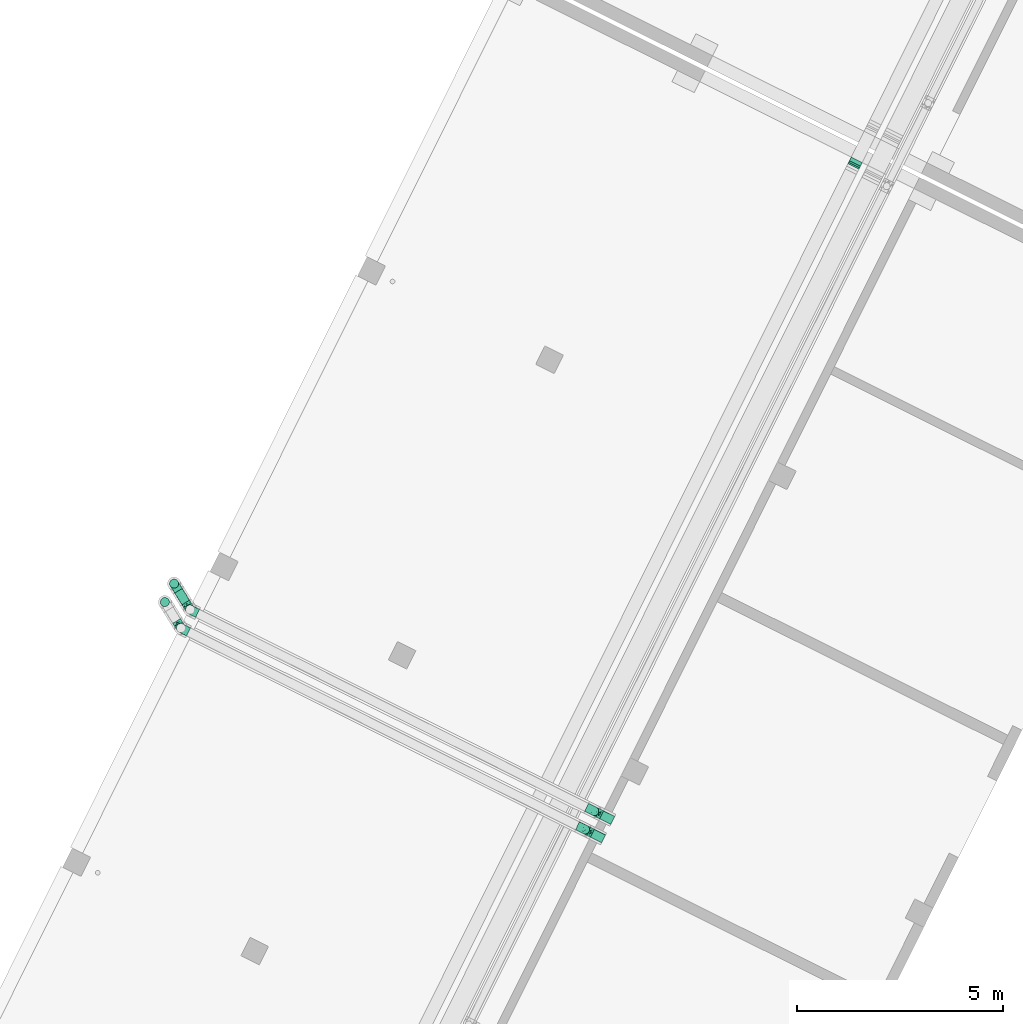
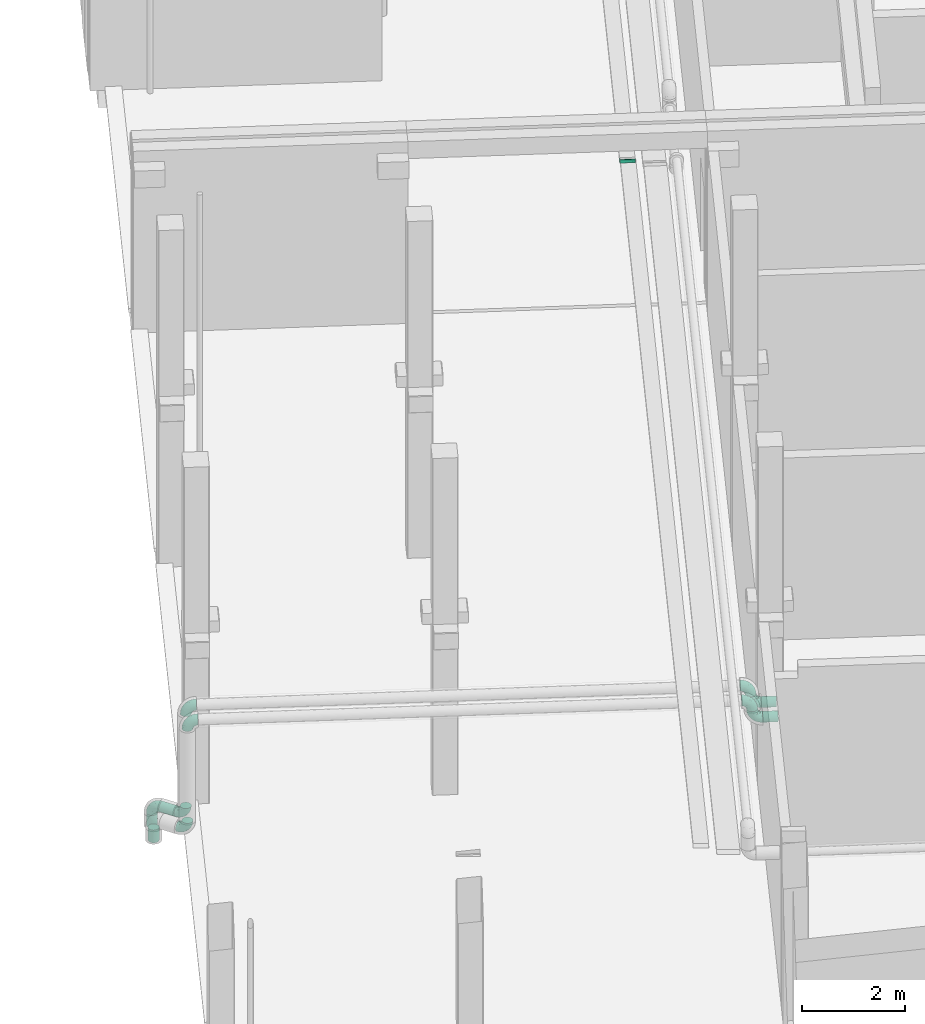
# One storey, part 73 of 91: 10 flow fittings, 6 flow segments.
"""IFC2X3 building model written with IfcOpenShell, lengths in metres."""

from ifc_helpers import new_model, entity, si_unit, converted_unit, derived_unit, direction, frame, frame_2d, origin, origin_2d_with_axis, place, context, subcontext, project, spatial, rectangle, circle, extrude, faceted_brep, source, transform, mapped, type_object, type_shapes, element, save


model = new_model("IFC2X3")

# Units and contexts
model_context = context("Model", 3, precision=1e-05, world=origin(), true_north=direction((0.894925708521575, 0.446215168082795)))
context_of_model = context(None, 3, precision=1e-05, world=origin(), true_north=direction((0.894925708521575, 0.446215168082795)))
body_context = subcontext(model_context, "Body", "Model", "MODEL_VIEW")
ifc_project = project(units=[si_unit("LENGTHUNIT", "METRE"), si_unit("AREAUNIT", "SQUARE_METRE"), si_unit("VOLUMEUNIT", "CUBIC_METRE"), converted_unit("PLANEANGLEUNIT", "DEGREE", entity("IfcRatioMeasure", 0.0174532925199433), si_unit("PLANEANGLEUNIT", "RADIAN"), dimensions=[0, 0, 0, 0, 0, 0, 0]), si_unit("MASSUNIT", "GRAM", prefix="KILO"), si_unit("TIMEUNIT", "SECOND"), si_unit("FREQUENCYUNIT", "HERTZ"), si_unit("THERMODYNAMICTEMPERATUREUNIT", "DEGREE_CELSIUS"), derived_unit("THERMALTRANSMITTANCEUNIT", [(si_unit("MASSUNIT", "GRAM", prefix="KILO"), 1), (si_unit("THERMODYNAMICTEMPERATUREUNIT", "KELVIN"), -1), (si_unit("TIMEUNIT", "SECOND"), -3)]), derived_unit("VOLUMETRICFLOWRATEUNIT", [(si_unit("LENGTHUNIT", "METRE"), 3), (si_unit("TIMEUNIT", "SECOND"), -1)]), si_unit("ELECTRICCURRENTUNIT", "AMPERE"), si_unit("ELECTRICVOLTAGEUNIT", "VOLT"), si_unit("POWERUNIT", "WATT"), si_unit("FORCEUNIT", "NEWTON", prefix="KILO"), si_unit("ILLUMINANCEUNIT", "LUX"), si_unit("LUMINOUSFLUXUNIT", "LUMEN"), si_unit("LUMINOUSINTENSITYUNIT", "CANDELA"), si_unit("PRESSUREUNIT", "PASCAL")], contexts=[model_context, context_of_model])

# Site, building, storey
site_placement = place(None, frame((218.228324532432, 584.720189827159, 0.0), z_axis=(0.0, 0.0, 1.0), x_axis=(0.446215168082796, 0.894925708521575, 0.0)))
site = spatial("IfcSite", under=ifc_project, at=site_placement, Name="Default", CompositionType="ELEMENT")
building_placement = place(site_placement, origin())
building = spatial("IfcBuilding", under=site, at=building_placement, CompositionType="ELEMENT")
storey_placement = place(building_placement, origin())
storey = spatial("IfcBuildingStorey", under=building, at=storey_placement, Name="0 - Piano Terra", CompositionType="ELEMENT", Elevation=0.0)

# Flow segments
pipe_segment_type = type_object("IfcPipeSegmentType", Name="Tubazione:Teleriscaldamento-Tubazione", PredefinedType="NOTDEFINED")
flow_segment_1_placement = place(storey_placement, frame((-30.1301016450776, 6.25227424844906, 0.38886722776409)))
element("IfcFlowSegment", 1, at=flow_segment_1_placement, inside=storey, type_object=pipe_segment_type, Name="Tubazione:Teleriscaldamento-Tubazione", ObjectType="Tubazione:Teleriscaldamento-Tubazione", context=body_context, shape_type="SweptSolid", body=[
    extrude(circle(Radius=0.1095375, at=origin_2d_with_axis()), frame((0.0947311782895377, 0.0592508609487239, 0.111132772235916), z_axis=(0.52635479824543, 0.850265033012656, 0.0), x_axis=(-0.850265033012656, 0.52635479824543, 0.0)), (0.0, 0.0, 1.0), 0.334945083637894),
])
flow_segment_2_placement = place(storey_placement, frame((-30.2533532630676, -5.30174555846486, 2.5588672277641)))
element("IfcFlowSegment", 2, at=flow_segment_2_placement, inside=storey, type_object=pipe_segment_type, Name="Tubazione:Teleriscaldamento-Tubazione", ObjectType="Tubazione:Teleriscaldamento-Tubazione", context=body_context, shape_type="SweptSolid", body=[
    extrude(circle(Radius=0.1095375, at=origin_2d_with_axis()), frame((0.111132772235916, 0.0, 0.111132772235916), z_axis=(0.0, 1.0, 0.0), x_axis=(-1.0, 0.0, 0.0)), (0.0, 0.0, 1.0), 0.3),
])
for number, where, name in (
    (3, (-29.8633532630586, 6.65778823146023, 0.0), "Tubazione:Teleriscaldamento-Tubazione"),
    (4, (-30.3633532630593, 6.65778823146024, 0.0), "Tubazione:Teleriscaldamento-Tubazione"),
):
    element("IfcFlowSegment", number, at=place(storey_placement, frame(where)), inside=storey, type_object=pipe_segment_type, Name=name, ObjectType="Tubazione:Teleriscaldamento-Tubazione", context=body_context, shape_type="SweptSolid", body=[
        extrude(circle(Radius=0.1095375, at=origin_2d_with_axis()), frame((0.111132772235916, 0.111132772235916, 0.0)), (0.0, 0.0, 1.0), 0.297000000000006),
    ])
flow_segment_3_placement = place(storey_placement, frame((-30.7533532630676, -5.30174555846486, 2.5588672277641)))
element("IfcFlowSegment", 5, at=flow_segment_3_placement, inside=storey, type_object=pipe_segment_type, Name="Tubazione:Teleriscaldamento-Tubazione", ObjectType="Tubazione:Teleriscaldamento-Tubazione", context=body_context, shape_type="SweptSolid", body=[
    extrude(circle(Radius=0.1095375, at=origin_2d_with_axis()), frame((0.111132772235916, 0.0, 0.111132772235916), z_axis=(0.0, 1.0, 0.0), x_axis=(-1.0, 0.0, 0.0)), (0.0, 0.0, 1.0), 0.3),
])

# Flow fittings
pipe_fitting_type = type_object("IfcPipeFittingType", Name="Standard", PredefinedType="NOTDEFINED")
shared_shape_1 = source(origin(), body_context, "Body", "Brep", [
    faceted_brep([(-0.202999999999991, 0.0547749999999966, -0.0948730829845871), (-0.202999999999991, 0.0283536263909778, -0.105817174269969), (-0.202999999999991, 0.0, -0.109550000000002), (-0.202999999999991, -0.0283536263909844, -0.105817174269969), (-0.202999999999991, -0.0547750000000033, -0.0948730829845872), (-0.202999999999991, -0.0774635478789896, -0.0774635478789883), (-0.202999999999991, -0.0948730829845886, -0.0547750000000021), (-0.202999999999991, -0.105817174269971, -0.0283536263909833), (-0.20299999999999, -0.109550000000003, 0.0), (-0.202999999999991, -0.105817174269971, 0.0283536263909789), (-0.202999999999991, -0.094873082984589, 0.0547749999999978), (-0.202999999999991, -0.0774635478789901, 0.0774635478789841), (-0.202999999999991, -0.0547750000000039, 0.0948730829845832), (-0.202999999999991, -0.0283536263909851, 0.105817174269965), (-0.202999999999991, 0.0, 0.109549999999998), (-0.202999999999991, 0.0283536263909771, 0.105817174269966), (-0.202999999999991, 0.054774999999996, 0.0948730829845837), (-0.202999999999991, 0.0774635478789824, 0.0774635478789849), (-0.202999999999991, 0.0948730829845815, 0.0547749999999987), (-0.202999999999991, 0.105817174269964, 0.0283536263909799), (-0.202999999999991, 0.109549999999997, 0.0), (-0.202999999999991, 0.105817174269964, -0.028353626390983), (-0.202999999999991, 0.0948730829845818, -0.0547750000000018), (-0.202999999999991, 0.0774635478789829, -0.0774635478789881), (0.0, 0.202999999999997, -0.109550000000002), (-0.0283536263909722, 0.202999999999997, -0.105817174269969), (-0.054774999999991, 0.202999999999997, -0.0948730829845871), (-0.0774635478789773, 0.202999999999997, -0.0774635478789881), (-0.0948730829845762, 0.202999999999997, -0.0547750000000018), (-0.105817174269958, 0.202999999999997, -0.028353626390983), (-0.109549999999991, 0.202999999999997, 0.0), (-0.105817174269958, 0.202999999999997, 0.0283536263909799), (-0.0948730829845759, 0.202999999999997, 0.0547749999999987), (-0.0774635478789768, 0.202999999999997, 0.0774635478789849), (-0.0547749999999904, 0.202999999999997, 0.0948730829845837), (-0.0283536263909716, 0.202999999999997, 0.105817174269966), (0.0, 0.202999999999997, 0.109549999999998), (0.0283536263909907, 0.202999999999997, 0.105817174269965), (0.0547750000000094, 0.202999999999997, 0.0948730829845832), (0.0774635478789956, 0.202999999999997, 0.0774635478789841), (0.0948730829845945, 0.202999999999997, 0.0547749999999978), (0.105817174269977, 0.202999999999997, 0.0283536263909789), (0.109550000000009, 0.202999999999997, 0.0), (0.105817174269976, 0.202999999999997, -0.0283536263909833), (0.0948730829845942, 0.202999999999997, -0.0547750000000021), (0.0774635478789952, 0.202999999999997, -0.0774635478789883), (0.0547750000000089, 0.202999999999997, -0.0948730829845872), (0.02835362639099, 0.202999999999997, -0.105817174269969), (-0.149543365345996, -0.0859410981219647, 0.0612248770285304), (-0.133274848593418, -0.0645105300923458, 0.0812809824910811), (-0.14202451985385, -0.103544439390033, 0.0), (0.0365496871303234, 0.00903200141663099, 0.0304499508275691), (-0.0120053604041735, -0.0341632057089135, 0.041197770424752), (-0.00653643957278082, -0.03821029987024, 0.0177929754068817), (-0.137121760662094, -0.0970162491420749, 0.0339274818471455), (-0.171652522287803, 0.066276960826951, 0.0898121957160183), (-0.157181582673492, 0.0911021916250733, 0.0725483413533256), (-0.154019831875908, -0.0152662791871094, 0.107577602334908), (-0.141251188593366, 0.0156360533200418, 0.109400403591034), (0.0180062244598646, -0.0180062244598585, 0.0), (-0.029356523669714, -0.0568758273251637, 0.0), (-0.0619292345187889, -0.0721800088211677, 0.0267538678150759), (-0.0987053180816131, -0.0848025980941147, 0.0369872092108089), (-0.0833922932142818, -0.0857585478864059, 0.0), (0.018303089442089, 0.0117187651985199, 0.0631562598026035), (0.0540677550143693, 0.0443537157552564, 0.0467365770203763), (0.0463447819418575, 0.0617040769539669, 0.070801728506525), (-0.148629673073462, -0.0423036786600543, 0.0983487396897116), (-0.0530131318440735, 0.00418638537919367, 0.0994039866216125), (-0.0988806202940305, -0.0032608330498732, 0.105897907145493), (-0.0936936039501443, -0.0288665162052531, 0.0956874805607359), (-0.0156360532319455, 0.141251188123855, 0.109400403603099), (0.0645105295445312, 0.133274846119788, 0.0812809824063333), (-0.0186420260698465, 0.102508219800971, 0.109328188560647), (-0.040155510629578, 0.06673830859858, 0.109151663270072), (0.00326083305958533, 0.0988806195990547, 0.105897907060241), (-0.156218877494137, 0.0421194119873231, 0.103653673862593), (-0.0911021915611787, 0.157181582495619, 0.0725483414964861), (-0.162665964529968, 0.105172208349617, 0.0505623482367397), (-0.0696903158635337, 0.107291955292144, 0.102414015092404), (-0.099677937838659, 0.0822390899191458, 0.10029461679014), (-0.0755574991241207, 0.0755574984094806, 0.107157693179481), (-0.148071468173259, 0.127397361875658, 0.0), (-0.174122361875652, 0.114123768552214, 0.0), (-0.15467602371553, 0.118894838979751, 0.0276600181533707), (-0.0190685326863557, 0.0454014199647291, 0.102290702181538), (-0.128250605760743, 0.12825060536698, 0.0503604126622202), (-0.11889483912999, 0.154676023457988, 0.0276600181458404), (-0.134241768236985, 0.110156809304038, 0.0659581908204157), (-0.0753133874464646, 0.133251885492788, 0.093243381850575), (-0.111883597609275, 0.111883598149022, 0.0806484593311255), (-0.0470267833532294, -0.0485912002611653, 0.0578716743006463), (0.0568758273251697, 0.0293565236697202, 0.0), (0.0857585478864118, 0.0833922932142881, 0.0), (0.0721800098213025, 0.0619292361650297, 0.0267538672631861), (0.0729318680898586, 0.090582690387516, 0.0546361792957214), (0.0892520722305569, 0.0983535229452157, 0.0214848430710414), (0.103544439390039, 0.142024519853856, 0.0), (0.0970162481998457, 0.137121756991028, 0.0339274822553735), (-0.110418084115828, 0.133181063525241, 0.0665189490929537), (-0.105172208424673, 0.162665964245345, 0.0505623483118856), (0.0859410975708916, 0.149543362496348, 0.061224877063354), (-0.133251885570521, 0.0753133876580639, 0.0932433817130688), (-0.113132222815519, 0.0515635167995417, 0.10619458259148), (0.0152662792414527, 0.1540198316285, 0.107577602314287), (-0.0601833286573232, -0.0379290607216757, 0.0778476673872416), (-0.090582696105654, -0.0729318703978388, 0.054636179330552), (-0.127397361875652, 0.148071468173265, 0.0), (-0.114123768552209, 0.174122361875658, 0.0), (-0.01879993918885, -0.0187194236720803, 0.0687990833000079), (-0.0441881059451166, 0.111554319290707, 0.107756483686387), (-0.0662769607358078, 0.171652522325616, 0.0898121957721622), (-0.0421194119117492, 0.156218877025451, 0.103653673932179), (0.0423036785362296, 0.14862967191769, 0.0983487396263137), (0.0297661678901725, 0.0757392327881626, 0.0901218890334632), (-0.0637434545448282, 0.0239651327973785, 0.106929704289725), (-0.0136192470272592, 0.0136192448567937, 0.0883116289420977), (0.0190607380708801, 0.0376114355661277, 0.0808854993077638), (-0.087146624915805, 0.0351941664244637, 0.10954618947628), (-0.0992158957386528, 0.090657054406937, -0.0974457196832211), (-0.114529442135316, 0.106972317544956, -0.0821888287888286), (-0.0771700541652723, 0.128615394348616, -0.0936577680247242), (-0.176860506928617, 0.0658687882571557, -0.0893402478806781), (-0.114594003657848, -0.00815353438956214, -0.106441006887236), (-0.163068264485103, -0.0159005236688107, -0.107798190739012), (-0.146932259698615, 0.0146955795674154, -0.109355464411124), (-0.133786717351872, 0.109681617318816, -0.0668149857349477), (-0.162569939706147, 0.10523809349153, -0.0505157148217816), (-0.128250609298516, 0.128250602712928, -0.0503604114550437), (-0.157112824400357, 0.0419935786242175, -0.103610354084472), (-0.105106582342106, 0.162761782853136, -0.0506088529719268), (-0.154676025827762, 0.118894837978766, -0.027660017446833), (-0.0643852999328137, -0.0709858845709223, -0.0342625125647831), (-0.0915471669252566, 0.155661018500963, -0.0727454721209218), (-0.110775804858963, 0.133154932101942, -0.0661646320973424), (-0.118894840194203, 0.154676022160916, -0.0276600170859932), (-0.159632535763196, 0.0904285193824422, -0.0722315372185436), (-0.14182871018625, 0.0723368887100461, -0.0924790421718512), (0.00939374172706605, 0.044912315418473, -0.0904751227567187), (0.00425554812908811, 0.086201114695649, -0.103841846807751), (0.0255018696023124, 0.0846960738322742, -0.0951394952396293), (0.0380992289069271, 0.00673624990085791, -0.0190378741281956), (-0.0356806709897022, -0.00623671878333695, -0.0882490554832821), (-0.0862103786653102, -0.0240952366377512, -0.0962234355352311), (-0.0716290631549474, 0.00926635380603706, -0.105050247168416), (-0.0898086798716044, 0.0297010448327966, -0.109477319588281), (-0.147381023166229, -0.0986515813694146, -0.0352134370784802), (-0.17038635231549, -0.0875153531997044, -0.0633997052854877), (-0.112622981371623, -0.094584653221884, -0.018328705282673), (-0.0131511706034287, 0.160158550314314, -0.10922921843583), (-0.0431379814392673, 0.14994406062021, -0.103954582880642), (-0.149056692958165, -0.06659425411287, -0.0826203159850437), (-0.141993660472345, -0.0415311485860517, -0.0979674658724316), (-0.073675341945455, -0.0477716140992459, -0.0757346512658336), (-0.126407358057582, -0.0823794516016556, -0.0587267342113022), (-0.0460971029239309, -0.0446746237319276, -0.062182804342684), (-0.0129711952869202, -0.0197392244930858, -0.062766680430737), (0.0986515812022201, 0.14738102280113, -0.0352134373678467), (0.0147379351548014, 0.148841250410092, -0.107444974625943), (-0.122247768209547, 0.0376894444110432, -0.107886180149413), (-0.106473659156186, -0.0867326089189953, -0.0389581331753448), (-0.00866559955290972, -0.0368208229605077, -0.0288811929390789), (0.0662633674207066, 0.145994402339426, -0.082363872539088), (0.0435947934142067, 0.170932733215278, -0.0995758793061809), (0.0391915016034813, 0.127368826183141, -0.0970983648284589), (-0.0665741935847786, 0.168857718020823, -0.0900643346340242), (0.0875153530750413, 0.170386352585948, -0.0633997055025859), (0.071558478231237, 0.0632924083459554, -0.0310440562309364), (-0.0327241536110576, 0.0327241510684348, -0.102819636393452), (0.0901910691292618, 0.102275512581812, -0.0234517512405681), (-0.0251812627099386, 0.0738283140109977, -0.108256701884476), (-0.0528394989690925, 0.0423893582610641, -0.108242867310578), (-0.0553540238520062, 0.0683772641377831, -0.109503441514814), (0.0666566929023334, 0.0858982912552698, -0.0610149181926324), (0.0470404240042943, 0.0455554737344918, -0.0587237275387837), (0.0477716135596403, 0.0736753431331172, -0.0757346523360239), (-0.0781940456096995, -0.0660069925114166, -0.057006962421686), (0.0823794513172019, 0.126407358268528, -0.0587267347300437), (-0.023684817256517, 0.110613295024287, -0.109542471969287), (-0.0616602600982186, 0.102519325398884, -0.105479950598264), (0.0336027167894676, 0.0126634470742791, -0.0432313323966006), (0.0194637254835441, 0.0233258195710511, -0.071546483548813), (0.0824234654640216, 0.0985101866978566, -0.0425512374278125), (-0.0940929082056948, 0.0634850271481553, -0.106417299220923)], [[[0, 1, 2, 3, 4, 5, 6, 7, 8, 9, 10, 11, 12, 13, 14, 15, 16, 17, 18, 19, 20, 21, 22, 23]], [[24, 25, 26, 27, 28, 29, 30, 31, 32, 33, 34, 35, 36, 37, 38, 39, 40, 41, 42, 43, 44, 45, 46, 47]], [[48, 49, 11]], [[9, 8, 50]], [[51, 52, 53]], [[54, 10, 9]], [[50, 54, 9]], [[17, 55, 56]], [[10, 48, 11]], [[14, 57, 58]], [[59, 53, 60]], [[61, 62, 63]], [[12, 11, 49]], [[64, 65, 66]], [[49, 67, 12]], [[68, 69, 70]], [[71, 36, 35]], [[72, 39, 38]], [[73, 74, 75]], [[15, 76, 16]], [[77, 33, 32]], [[15, 58, 76]], [[13, 57, 14]], [[78, 19, 18]], [[79, 80, 81]], [[82, 83, 84]], [[74, 85, 75]], [[20, 19, 84]], [[86, 87, 84]], [[51, 64, 52]], [[78, 56, 88]], [[89, 77, 90]], [[17, 16, 55]], [[18, 17, 56]], [[91, 61, 52]], [[20, 84, 83]], [[92, 93, 94]], [[95, 94, 96]], [[97, 41, 98]], [[97, 98, 96]], [[99, 100, 86]], [[30, 87, 31]], [[14, 58, 15]], [[98, 41, 40]], [[101, 72, 95]], [[40, 39, 101]], [[63, 54, 50]], [[102, 103, 80]], [[54, 62, 48]], [[41, 97, 42]], [[101, 98, 40]], [[37, 36, 104]], [[105, 49, 106]], [[87, 82, 84]], [[87, 100, 31]], [[87, 107, 82]], [[108, 87, 30]], [[60, 61, 63]], [[109, 105, 91]], [[107, 87, 108]], [[110, 74, 73]], [[34, 33, 111]], [[77, 89, 111]], [[71, 112, 110]], [[72, 113, 114]], [[113, 38, 37]], [[35, 34, 112]], [[35, 112, 71]], [[104, 71, 73]], [[12, 67, 13]], [[115, 69, 68]], [[113, 72, 38]], [[86, 100, 87]], [[59, 92, 51]], [[90, 99, 88]], [[80, 90, 102]], [[78, 86, 84]], [[94, 51, 92]], [[116, 105, 109]], [[94, 65, 51]], [[66, 72, 114]], [[91, 105, 106]], [[105, 116, 68]], [[70, 49, 105]], [[57, 67, 69]], [[104, 113, 37]], [[75, 85, 114]], [[75, 114, 113]], [[117, 64, 66]], [[111, 112, 34]], [[110, 79, 81]], [[58, 118, 103]], [[55, 76, 102]], [[54, 48, 10]], [[49, 48, 106]], [[72, 101, 39]], [[98, 101, 95]], [[99, 90, 77]], [[56, 102, 90]], [[71, 104, 36]], [[113, 104, 75]], [[67, 57, 13]], [[58, 57, 69]], [[61, 60, 53]], [[62, 61, 106]], [[96, 94, 93]], [[94, 95, 65]], [[77, 32, 100]], [[31, 100, 32]], [[19, 78, 84]], [[18, 56, 78]], [[79, 112, 89]], [[110, 81, 74]], [[118, 74, 81]], [[85, 68, 116]], [[103, 81, 80]], [[69, 118, 58]], [[118, 69, 115]], [[114, 85, 116]], [[85, 74, 115]], [[69, 67, 70]], [[49, 70, 67]], [[105, 68, 70]], [[85, 115, 68]], [[74, 118, 115]], [[112, 79, 110]], [[89, 90, 80]], [[80, 79, 89]], [[103, 102, 76]], [[58, 103, 76]], [[118, 81, 103]], [[77, 111, 33]], [[112, 111, 89]], [[76, 55, 16]], [[56, 55, 102]], [[66, 65, 95]], [[64, 51, 65]], [[72, 66, 95]], [[66, 114, 117]], [[114, 116, 117]], [[117, 116, 109]], [[51, 53, 59]], [[61, 53, 52]], [[61, 91, 106]], [[109, 52, 64]], [[52, 109, 91]], [[109, 64, 117]], [[100, 99, 77]], [[88, 99, 86]], [[78, 88, 86]], [[90, 88, 56]], [[48, 62, 106]], [[63, 62, 54]], [[97, 96, 93]], [[95, 96, 98]], [[104, 73, 75]], [[110, 73, 71]], [[119, 120, 121]], [[0, 23, 122]], [[123, 124, 125]], [[126, 127, 128]], [[1, 129, 125]], [[130, 29, 28]], [[83, 131, 20]], [[63, 132, 60]], [[131, 83, 82]], [[130, 133, 134]], [[107, 135, 82]], [[122, 136, 137]], [[138, 139, 140]], [[141, 92, 59]], [[142, 143, 144]], [[145, 123, 125]], [[146, 6, 147]], [[148, 50, 146]], [[50, 8, 7]], [[149, 150, 25]], [[151, 4, 152]], [[151, 153, 154]], [[151, 5, 4]], [[155, 142, 156]], [[23, 22, 136]], [[146, 7, 6]], [[147, 6, 5]], [[44, 43, 157]], [[4, 3, 152]], [[124, 152, 3]], [[47, 158, 24]], [[129, 159, 125]], [[131, 82, 135]], [[143, 152, 123]], [[128, 131, 135]], [[2, 1, 125]], [[29, 135, 30]], [[146, 160, 148]], [[161, 60, 132]], [[21, 131, 127]], [[150, 26, 25]], [[46, 45, 162]], [[158, 47, 163]], [[164, 163, 162]], [[27, 165, 133]], [[149, 25, 24]], [[45, 44, 166]], [[27, 26, 165]], [[30, 135, 108]], [[47, 46, 163]], [[92, 141, 167]], [[60, 161, 59]], [[138, 168, 139]], [[150, 121, 165]], [[167, 169, 93]], [[170, 171, 172]], [[173, 167, 174]], [[2, 124, 3]], [[164, 162, 175]], [[27, 133, 28]], [[42, 97, 43]], [[167, 93, 92]], [[132, 176, 155]], [[157, 177, 166]], [[137, 120, 119]], [[178, 158, 139]], [[121, 150, 179]], [[20, 131, 21]], [[1, 0, 129]], [[108, 135, 107]], [[125, 159, 145]], [[176, 132, 160]], [[178, 172, 179]], [[120, 137, 136]], [[130, 128, 135]], [[174, 180, 181]], [[157, 169, 182]], [[128, 127, 131]], [[134, 120, 126]], [[166, 162, 45]], [[162, 177, 173]], [[139, 158, 164]], [[149, 158, 178]], [[140, 175, 138]], [[170, 172, 178]], [[43, 97, 157]], [[97, 93, 169]], [[146, 154, 160]], [[50, 7, 146]], [[126, 120, 136]], [[133, 121, 120]], [[161, 132, 155]], [[141, 161, 180]], [[122, 129, 0]], [[183, 129, 137]], [[153, 151, 152]], [[147, 151, 154]], [[181, 180, 156]], [[142, 168, 138]], [[138, 175, 181]], [[153, 152, 143]], [[181, 142, 138]], [[161, 156, 180]], [[172, 145, 183]], [[145, 171, 144]], [[29, 130, 135]], [[28, 133, 130]], [[136, 22, 127]], [[21, 127, 22]], [[158, 149, 24]], [[150, 149, 178]], [[179, 172, 183]], [[178, 139, 170]], [[179, 183, 119]], [[178, 179, 150]], [[143, 123, 144]], [[153, 143, 142]], [[181, 175, 174]], [[142, 181, 156]], [[150, 165, 26]], [[133, 165, 121]], [[125, 124, 2]], [[152, 124, 123]], [[179, 119, 121]], [[137, 119, 183]], [[139, 168, 170]], [[171, 170, 168]], [[144, 171, 168]], [[145, 172, 171]], [[144, 168, 142]], [[145, 144, 123]], [[173, 174, 175]], [[167, 180, 174]], [[162, 173, 175]], [[173, 177, 182]], [[161, 141, 59]], [[167, 141, 180]], [[136, 122, 23]], [[129, 122, 137]], [[162, 163, 46]], [[158, 163, 164]], [[157, 166, 44]], [[162, 166, 177]], [[151, 147, 5]], [[146, 147, 154]], [[154, 153, 176]], [[155, 176, 153]], [[142, 155, 153]], [[161, 155, 156]], [[182, 169, 167]], [[97, 169, 157]], [[173, 182, 167]], [[157, 182, 177]], [[176, 160, 154]], [[148, 132, 63]], [[132, 148, 160]], [[50, 148, 63]], [[127, 126, 136]], [[134, 126, 128]], [[130, 134, 128]], [[120, 134, 133]], [[129, 183, 159]], [[145, 159, 183]], [[139, 164, 140]], [[175, 140, 164]]]),
])
type_shapes(pipe_fitting_type, [shared_shape_1])
for number, where, z_axis, x_axis, name in (
    (6, (-30.1422204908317, 6.13892130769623, 3.07600000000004), (-1.0, 0.0, 0.0), (0.0, 1.0, 0.0), "M_Gomito - Saldato - Generico:Standard"),
    (7, (-29.7522204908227, 6.76892100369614, 0.499999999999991), (0.850265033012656, -0.52635479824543, 0.0), (0.0, 0.0, 1.0), "M_Gomito - Saldato - Generico:Standard"),
    (8, (-30.1422204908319, 6.13892130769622, 0.499999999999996), (0.850265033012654, -0.526354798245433, 0.0), (0.0, 0.0, -1.0), "M_Gomito - Saldato - Generico:Standard"),
    (9, (-30.1422204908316, -4.79874555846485, 3.07600000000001), (1.0, 0.0, 0.0), (0.0, -1.0, 0.0), "M_Gomito - Saldato - Generico:Standard"),
    (10, (-30.1422204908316, -4.79874555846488, 2.67), (1.0, 0.0, 0.0), (0.0, 1.0, 0.0), "M_Gomito - Saldato - Generico:Standard"),
    (11, (-30.6422204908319, 6.13892130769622, 0.499999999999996), (0.850265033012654, -0.526354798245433, 0.0), (0.0, 0.0, -1.0), "M_Gomito - Saldato - Generico:Standard"),
    (12, (-30.6422204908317, 6.13892130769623, 3.07600000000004), (-1.0, 0.0, 0.0), (0.0, 1.0, 0.0), "M_Gomito - Saldato - Generico:Standard"),
    (13, (-30.6422204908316, -4.79874555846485, 3.07600000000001), (1.0, 0.0, 0.0), (0.0, -1.0, 0.0), "M_Gomito - Saldato - Generico:Standard"),
    (14, (-30.6422204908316, -4.79874555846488, 2.67), (1.0, 0.0, 0.0), (0.0, 1.0, 0.0), "M_Gomito - Saldato - Generico:Standard"),
):
    element("IfcFlowFitting", number, at=place(storey_placement, frame(where, z_axis=z_axis, x_axis=x_axis)), inside=storey, type_object=pipe_fitting_type, Name=name, ObjectType="Standard", context=body_context, shape_type="MappedRepresentation", body=[
        mapped(shared_shape_1, transform((0.0, 0.0, 0.0), scale=1.0)),
    ])

# Flow segment
cable_carrier_segment_type = type_object("IfcCableCarrierSegmentType", Name="Passerella con raccordi:Passerella canale", PredefinedType="NOTDEFINED")
flow_segment_4_placement = place(storey_placement, frame((-13.3624177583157, -3.60107899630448, 3.69822448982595)))
element("IfcFlowSegment", 15, at=flow_segment_4_placement, inside=storey, type_object=cable_carrier_segment_type, Name="Passerella con raccordi:Passerella canale", ObjectType="Passerella con raccordi:Passerella canale", context=body_context, shape_type="SweptSolid", body=[
    extrude(rectangle(XDim=0.0750000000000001, YDim=0.0527002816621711, at=frame_2d((2.70616862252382e-16, 4.68375338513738e-16), x_axis=(0.0, 1.0))), frame((0.0415698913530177, 0.0, 0.0456510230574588), z_axis=(0.0, 1.0, 0.0), x_axis=(-0.866025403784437, 0.0, 0.500000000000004)), (0.0, 0.0, 1.0), 0.3),
])

# Flow fitting
cable_carrier_fitting_type = type_object("IfcCableCarrierFittingType", Name="Standard", PredefinedType="NOTDEFINED")
shared_shape_2 = source(origin(), body_context, "Body", "Brep", [
    faceted_brep([(-0.0608988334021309, -0.0374999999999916, -0.150000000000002), (-0.0608988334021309, -0.0374999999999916, -0.147460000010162), (-0.0608988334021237, 0.0349600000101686, -0.147460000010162), (-0.0608988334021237, 0.0349600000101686, 0.147460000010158), (-0.0608988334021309, -0.0374999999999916, 0.147460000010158), (-0.0608988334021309, -0.0374999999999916, 0.149999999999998), (-0.0608988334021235, 0.0375000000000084, 0.149999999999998), (-0.0608988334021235, 0.0375000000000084, -0.150000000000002), (0.0702199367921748, -0.000173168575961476, -0.147460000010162), (0.0339899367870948, -0.0629253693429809, -0.147460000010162), (0.0339899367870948, -0.0629253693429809, -0.150000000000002), (0.0714899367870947, 0.00202653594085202, -0.150000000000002), (0.0714899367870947, 0.00202653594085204, 0.149999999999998), (0.0339899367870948, -0.0629253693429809, 0.149999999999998), (0.0339899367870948, -0.0629253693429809, 0.147460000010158), (0.0702199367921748, -0.000173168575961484, 0.147460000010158), (-0.0108988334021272, -0.0374999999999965, 0.149999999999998), (-0.0100770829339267, -0.0376081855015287, 0.149999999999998), (-0.00931133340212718, -0.037925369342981, 0.149999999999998), (0.0281886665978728, 0.027026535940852, 0.149999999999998), (0.00933434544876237, 0.0348362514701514, 0.149999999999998), (-0.0108988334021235, 0.0375000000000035, 0.149999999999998), (-0.0108988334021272, 0.0375000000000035, -0.00436238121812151), (-0.0108988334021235, 0.0375000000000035, -0.150000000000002), (0.00933434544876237, 0.0348362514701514, -0.150000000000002), (0.0281886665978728, 0.027026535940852, -0.150000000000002), (-0.00931133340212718, -0.0379253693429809, -0.150000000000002), (-0.0100770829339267, -0.0376081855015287, -0.150000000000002), (-0.0108988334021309, -0.0374999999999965, -0.150000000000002), (-0.0108988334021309, -0.0374999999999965, -0.147460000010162), (-0.0108988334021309, -0.0374999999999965, 0.147460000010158), (-0.0100770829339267, -0.0376081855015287, -0.147460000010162), (-0.00931133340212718, -0.037925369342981, -0.147460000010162), (0.0269186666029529, 0.0248268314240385, -0.147460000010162), (0.00867694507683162, 0.0323827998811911, -0.147460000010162), (-0.0108988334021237, 0.0349600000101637, -0.147460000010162), (-0.0108988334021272, 0.0349600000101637, -0.00437396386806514), (-0.0108988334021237, 0.0349600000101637, 0.147460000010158), (0.00867694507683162, 0.0323827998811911, 0.147460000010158), (0.0269186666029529, 0.0248268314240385, 0.147460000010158), (-0.00931133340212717, -0.0379253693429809, 0.147460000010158), (-0.0100770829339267, -0.0376081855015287, 0.147460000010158), (0.00517118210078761, 0.0358304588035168, 0.0), (0.0281886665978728, 0.027026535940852, -0.00436237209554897), (0.00483151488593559, 0.0333061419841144, 0.0), (0.0269186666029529, 0.0248268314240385, -0.00437395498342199)], [[[0, 1, 2, 3, 4, 5, 6, 7]], [[8, 9, 10, 11, 12, 13, 14, 15]], [[5, 16, 17, 18, 13, 12, 19, 20, 21, 6]], [[21, 22, 23, 7, 6]], [[7, 23, 24, 25, 11, 10, 26, 27, 28, 0]], [[29, 1, 0, 28]], [[16, 5, 4, 30]], [[1, 29, 31, 32, 9, 8, 33, 34, 35, 2]], [[35, 36, 37, 3, 2]], [[3, 37, 38, 39, 15, 14, 40, 41, 30, 4]], [[42, 23, 22, 21]], [[25, 24, 43]], [[20, 19, 43]], [[24, 23, 42]], [[42, 20, 43]], [[24, 42, 43]], [[20, 42, 21]], [[28, 27, 31, 29]], [[16, 30, 41, 17]], [[31, 27, 26, 32]], [[41, 40, 18, 17]], [[37, 36, 35, 44]], [[45, 34, 33]], [[45, 39, 38]], [[44, 35, 34]], [[45, 38, 44]], [[45, 44, 34]], [[37, 44, 38]], [[11, 25, 43, 19, 12]], [[9, 32, 26, 10]], [[13, 18, 40, 14]], [[15, 39, 45, 33, 8]]]),
])
type_shapes(cable_carrier_fitting_type, [shared_shape_2])
flow_fitting_placement = place(storey_placement, frame((-13.2452880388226, -3.45107899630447, 3.70025102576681), z_axis=(0.0, -1.0, 0.0), x_axis=(-1.0, 0.0, 0.0)))
element("IfcFlowFitting", 16, at=flow_fitting_placement, inside=storey, type_object=cable_carrier_fitting_type, Name="M_Curvatura interna verticale canale:Standard", ObjectType="Standard", context=body_context, shape_type="MappedRepresentation", body=[
    mapped(shared_shape_2, transform((0.0, 0.0, 0.0), scale=1.0)),
])

save(model, "model.ifc")
